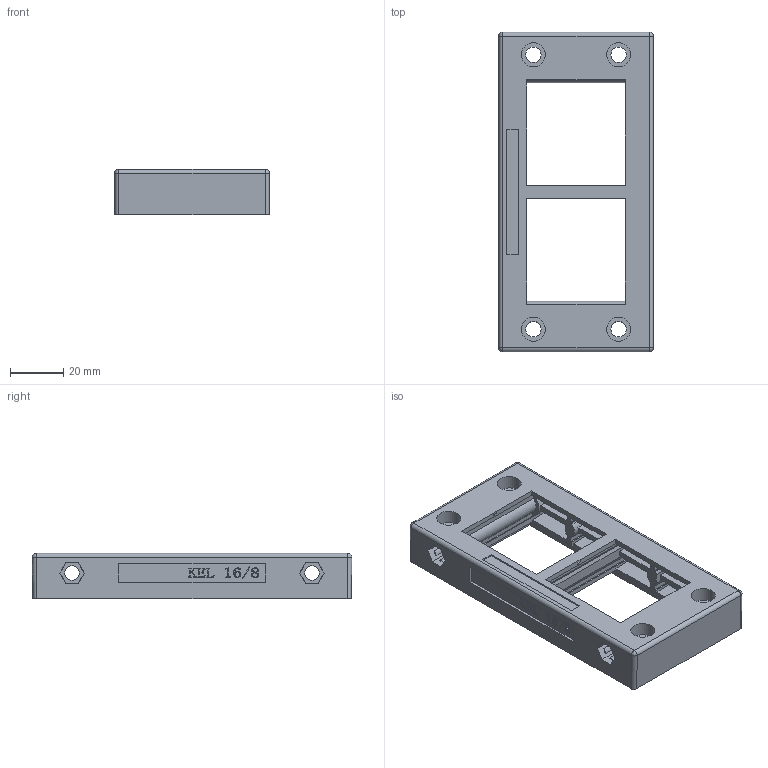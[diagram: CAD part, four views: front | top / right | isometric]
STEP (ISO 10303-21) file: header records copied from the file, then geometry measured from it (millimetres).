
FILE_DESCRIPTION(/* description */ (''),/* implementation_level */ '2;1');
FILE_NAME(/* name */ 'KEL 16-2.stp',/* time_stamp */ '2019-12-18T16:16:08+08:00',/* author */ (''),/* organization */ (''),/* preprocessor_version */ 'ST-DEVELOPER v16.7',/* originating_system */ 'SIEMENS PLM Software NX 12.0',/* authorisation */ '');
FILE_SCHEMA (('AP203_CONFIGURATION_CONTROLLED_3D_DESIGN_OF_MECHANICAL_PARTS_AND_ASSEMBLIES_MIM_LF { 1 0 10303 403 2 1 2}'));
Length unit declared in the file: millimetre
Products named in the file (1): 914765D86C20p74t
Bounding box: 58 x 120 x 17 mm (x, y, z)
Volume: 46963.3 mm3; surface area: 31505 mm2
Topology: 1 solids, 4 shells, 648 faces, 1909 edges, 1290 vertices
Faces by surface type: plane 394, cylinder 110, extrusion 69, cone 30, bspline 24, sphere 12, torus 9
Full cylindrical faces by diameter (mm): 3 x2, 5.5 x2, 5.8 x4, 9 x6
Entity records: 23528 total; most frequent: CARTESIAN_POINT 6556, ORIENTED_EDGE 3762, DIRECTION 3090, EDGE_CURVE 1881, VERTEX_POINT 1285, VECTOR 1278, LINE 1209, AXIS2_PLACEMENT_3D 906
